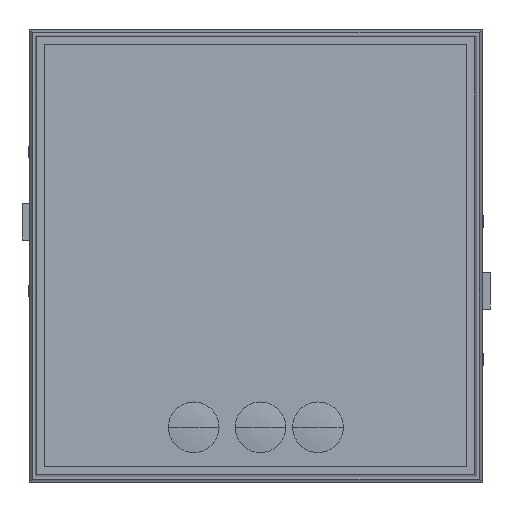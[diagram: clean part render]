
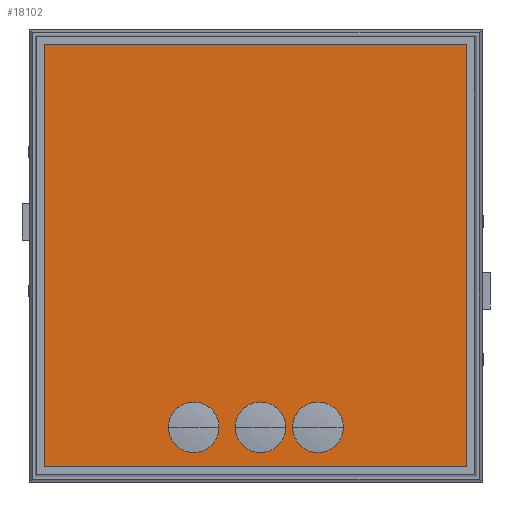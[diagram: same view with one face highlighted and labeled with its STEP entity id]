
A CAD part, top view. The second image highlights one B-rep face of the part: STEP entity #18102.
In plain terms, the highlighted planar face has unit normal (0, 0, 1).
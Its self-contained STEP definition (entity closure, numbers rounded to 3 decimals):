
#3474=DIRECTION('',(1.,0.,0.));
#3475=VECTOR('',#3474,91.68);
#3476=CARTESIAN_POINT('',(3.27,3.277,63.94));
#3477=LINE('',#3476,#3475);
#3478=DIRECTION('',(0.,-1.,0.));
#3479=VECTOR('',#3478,91.68);
#3480=CARTESIAN_POINT('',(3.27,94.957,63.94));
#3481=LINE('',#3480,#3479);
#3482=DIRECTION('',(-1.,0.,0.));
#3483=VECTOR('',#3482,91.68);
#3484=CARTESIAN_POINT('',(94.95,94.957,63.94));
#3485=LINE('',#3484,#3483);
#3486=DIRECTION('',(0.,1.,0.));
#3487=VECTOR('',#3486,91.68);
#3488=CARTESIAN_POINT('',(94.95,3.277,63.94));
#3489=LINE('',#3488,#3487);
#3490=CARTESIAN_POINT('',(35.607,11.867,63.94));
#3491=DIRECTION('',(0.,0.,-1.));
#3492=DIRECTION('',(-1.,0.,0.));
#3493=AXIS2_PLACEMENT_3D('',#3490,#3491,#3492);
#3495=CARTESIAN_POINT('',(35.607,11.867,63.94));
#3496=DIRECTION('',(0.,0.,-1.));
#3497=DIRECTION('',(1.,0.,0.));
#3498=AXIS2_PLACEMENT_3D('',#3495,#3496,#3497);
#3500=CARTESIAN_POINT('',(50.107,11.867,63.94));
#3501=DIRECTION('',(0.,0.,-1.));
#3502=DIRECTION('',(-1.,0.,0.));
#3503=AXIS2_PLACEMENT_3D('',#3500,#3501,#3502);
#3505=CARTESIAN_POINT('',(50.107,11.867,63.94));
#3506=DIRECTION('',(0.,0.,-1.));
#3507=DIRECTION('',(1.,0.,0.));
#3508=AXIS2_PLACEMENT_3D('',#3505,#3506,#3507);
#3510=CARTESIAN_POINT('',(62.607,11.867,63.94));
#3511=DIRECTION('',(0.,0.,-1.));
#3512=DIRECTION('',(-1.,0.,0.));
#3513=AXIS2_PLACEMENT_3D('',#3510,#3511,#3512);
#3515=CARTESIAN_POINT('',(62.607,11.867,63.94));
#3516=DIRECTION('',(0.,0.,-1.));
#3517=DIRECTION('',(1.,0.,0.));
#3518=AXIS2_PLACEMENT_3D('',#3515,#3516,#3517);
#10001=CARTESIAN_POINT('',(3.27,3.277,63.94));
#10002=CARTESIAN_POINT('',(94.95,3.277,63.94));
#10003=VERTEX_POINT('',#10001);
#10004=VERTEX_POINT('',#10002);
#10005=CARTESIAN_POINT('',(94.95,94.957,63.94));
#10006=VERTEX_POINT('',#10005);
#10007=CARTESIAN_POINT('',(3.27,94.957,63.94));
#10008=VERTEX_POINT('',#10007);
#12119=CARTESIAN_POINT('',(30.107,11.867,63.94));
#12120=CARTESIAN_POINT('',(41.107,11.867,63.94));
#12121=VERTEX_POINT('',#12119);
#12122=VERTEX_POINT('',#12120);
#12125=CARTESIAN_POINT('',(44.607,11.867,63.94));
#12126=CARTESIAN_POINT('',(55.607,11.867,63.94));
#12127=VERTEX_POINT('',#12125);
#12128=VERTEX_POINT('',#12126);
#12131=CARTESIAN_POINT('',(57.107,11.867,63.94));
#12132=CARTESIAN_POINT('',(68.107,11.867,63.94));
#12133=VERTEX_POINT('',#12131);
#12134=VERTEX_POINT('',#12132);
#18073=CARTESIAN_POINT('',(-10.,0.,63.94));
#18074=DIRECTION('',(0.,0.,1.));
#18075=DIRECTION('',(-1.,0.,0.));
#18076=AXIS2_PLACEMENT_3D('',#18073,#18074,#18075);
#18077=PLANE('',#18076);
#18078=ORIENTED_EDGE('',*,*,#17997,.F.);
#18079=ORIENTED_EDGE('',*,*,#18019,.F.);
#18080=ORIENTED_EDGE('',*,*,#18040,.F.);
#18081=ORIENTED_EDGE('',*,*,#18060,.F.);
#18082=EDGE_LOOP('',(#18078,#18079,#18080,#18081));
#18083=FACE_OUTER_BOUND('',#18082,.F.);
#18085=ORIENTED_EDGE('',*,*,#18084,.F.);
#18087=ORIENTED_EDGE('',*,*,#18086,.F.);
#18088=EDGE_LOOP('',(#18085,#18087));
#18089=FACE_BOUND('',#18088,.F.);
#18091=ORIENTED_EDGE('',*,*,#18090,.F.);
#18093=ORIENTED_EDGE('',*,*,#18092,.F.);
#18094=EDGE_LOOP('',(#18091,#18093));
#18095=FACE_BOUND('',#18094,.F.);
#18097=ORIENTED_EDGE('',*,*,#18096,.F.);
#18099=ORIENTED_EDGE('',*,*,#18098,.F.);
#18100=EDGE_LOOP('',(#18097,#18099));
#18101=FACE_BOUND('',#18100,.F.);
#3494=CIRCLE('',#3493,5.5);
#3499=CIRCLE('',#3498,5.5);
#3504=CIRCLE('',#3503,5.5);
#3509=CIRCLE('',#3508,5.5);
#3514=CIRCLE('',#3513,5.5);
#3519=CIRCLE('',#3518,5.5);
#17997=EDGE_CURVE('',#10003,#10004,#3477,.T.);
#18019=EDGE_CURVE('',#10008,#10003,#3481,.T.);
#18040=EDGE_CURVE('',#10006,#10008,#3485,.T.);
#18060=EDGE_CURVE('',#10004,#10006,#3489,.T.);
#18084=EDGE_CURVE('',#12121,#12122,#3494,.T.);
#18086=EDGE_CURVE('',#12122,#12121,#3499,.T.);
#18090=EDGE_CURVE('',#12127,#12128,#3504,.T.);
#18092=EDGE_CURVE('',#12128,#12127,#3509,.T.);
#18096=EDGE_CURVE('',#12133,#12134,#3514,.T.);
#18098=EDGE_CURVE('',#12134,#12133,#3519,.T.);
#18102=ADVANCED_FACE('',(#18083,#18089,#18095,#18101),#18077,.T.);
